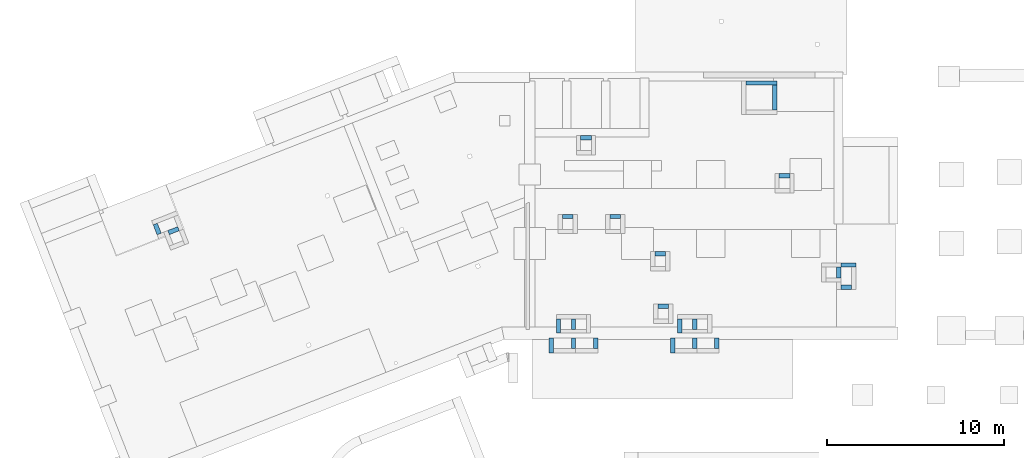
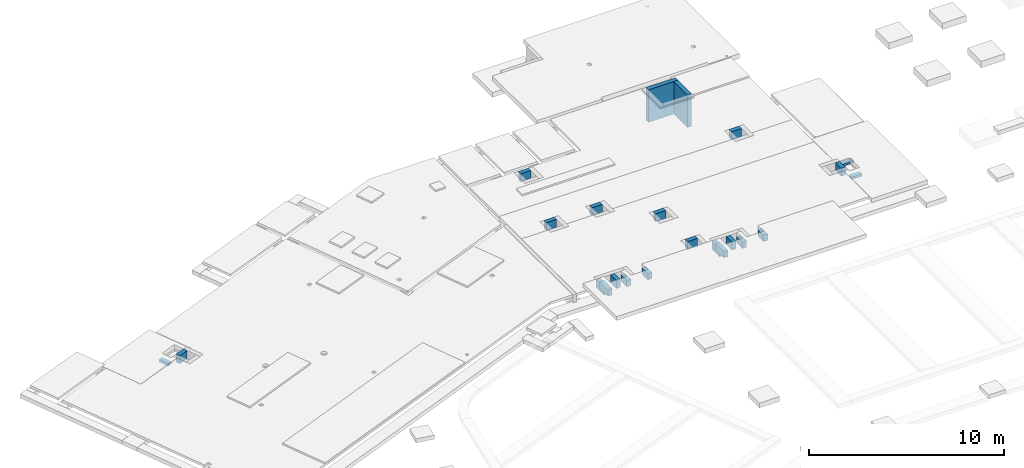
# One storey, part 6 of 9: 23 walls.
"""IFC2X3 building model written with IfcOpenShell, lengths in metres."""

from ifc_helpers import new_model, entity, si_unit, converted_unit, direction, frame, frame_2d, origin, origin_with_axes, place, context, subcontext, project, spatial, rectangle, extrude, material, layer, layer_set, layer_usage, element, save


model = new_model("IFC2X3")

# Units and contexts
model_context = context("Model", 3, precision=1e-05, world=origin(), true_north=direction((-0.407059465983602, -0.913401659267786)))
body_context = subcontext(model_context, "Body", "Model", "MODEL_VIEW")
ifc_project = project(units=[si_unit("LENGTHUNIT", "METRE"), si_unit("AREAUNIT", "SQUARE_METRE"), si_unit("VOLUMEUNIT", "CUBIC_METRE"), si_unit("MASSUNIT", "GRAM", prefix="KILO"), converted_unit("PLANEANGLEUNIT", "DEGREE", entity("IfcPlaneAngleMeasure", 0.0174532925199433), si_unit("PLANEANGLEUNIT", "RADIAN"), dimensions=[0, 0, 0, 0, 0, 0, 0])], contexts=[model_context])

# Site, buildings, storey
site_placement = place(None, origin())
site = spatial("IfcSite", under=ifc_project, at=site_placement, Name="Site", CompositionType="ELEMENT")
building_1_placement = place(site_placement, origin())
building_1 = spatial("IfcBuilding", under=site, at=building_1_placement, Name="Site", CompositionType="COMPLEX")
building_2_placement = place(building_1_placement, origin())
building_2 = spatial("IfcBuilding", under=building_1, at=building_2_placement, Name="Bâtiments", CompositionType="ELEMENT")
storey_placement = place(building_2_placement, frame((0.0, 0.0, -7.1)))
storey = spatial("IfcBuildingStorey", under=building_2, at=storey_placement, Name="FONDATIONS", CompositionType="ELEMENT", Elevation=-7.1)

# Walls
ifc_material_1 = material(Name="Béton")
ifc_layer_1 = layer(ifc_material_1, 0.25)
ifc_layer_set_1 = layer_set([ifc_layer_1])
ifc_layer_usage_1 = layer_usage(ifc_layer_set_1, "AXIS2", "POSITIVE", 0.0)
wall_1_placement = place(storey_placement, frame((6.54942355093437, 0.904791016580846, 1.9), z_axis=(0.0, 0.0, 1.0), x_axis=(0.365246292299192, -0.930910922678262, 0.0)))
element("IfcWallStandardCase", 1, at=wall_1_placement, inside=storey, material=ifc_layer_usage_1, context=body_context, shape_type="SweptSolid", body=[
    extrude(rectangle(XDim=0.6, YDim=0.25, at=frame_2d((0.3, 0.125), x_axis=(1.0, 0.0))), origin_with_axes(), (0.0, 0.0, 1.0), 0.15),
])
ifc_material_2 = material(Name="Béton")
ifc_layer_2 = layer(ifc_material_2, 0.250000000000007)
ifc_layer_set_2 = layer_set([ifc_layer_2])
ifc_layer_usage_2 = layer_usage(ifc_layer_set_2, "AXIS2", "POSITIVE", 0.0)
wall_2_placement = place(storey_placement, frame((46.3422690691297, -1.24454289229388, 1.9), z_axis=(0.0, 0.0, 1.0), x_axis=(-1.0, 0.0, 0.0)))
element("IfcWallStandardCase", 2, at=wall_2_placement, inside=storey, material=ifc_layer_usage_2, context=body_context, shape_type="SweptSolid", body=[
    extrude(rectangle(XDim=0.85, YDim=0.250000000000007, at=frame_2d((0.425, 0.125000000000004), x_axis=(1.0, 0.0))), origin_with_axes(), (0.0, 0.0, 1.0), 0.15),
])
ifc_material_3 = material(Name="Béton")
ifc_layer_3 = layer(ifc_material_3, 0.249999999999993)
ifc_layer_set_3 = layer_set([ifc_layer_3])
ifc_layer_usage_3 = layer_usage(ifc_layer_set_3, "AXIS2", "POSITIVE", 0.0)
wall_3_placement = place(storey_placement, frame((45.4922690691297, -2.74454289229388, 1.9), z_axis=(0.0, 0.0, 1.0), x_axis=(1.0, 1.2126596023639e-14, 0.0)))
element("IfcWallStandardCase", 3, at=wall_3_placement, inside=storey, material=ifc_layer_usage_3, context=body_context, shape_type="SweptSolid", body=[
    extrude(rectangle(XDim=0.6, YDim=0.249999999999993, at=frame_2d((0.3, 0.124999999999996), x_axis=(1.0, 0.0))), origin_with_axes(), (0.0, 0.0, 1.0), 0.15),
])
ifc_material_4 = material(Name="Béton")
ifc_layer_4 = layer(ifc_material_4, 0.249999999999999)
ifc_layer_set_4 = layer_set([ifc_layer_4])
ifc_layer_usage_4 = layer_usage(ifc_layer_set_4, "AXIS2", "POSITIVE", 0.0)
wall_4_placement = place(storey_placement, frame((7.93220997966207, 0.802802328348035, 1.8), z_axis=(0.0, 0.0, 1.0), x_axis=(-0.930910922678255, -0.36524629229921, 0.0)))
element("IfcWallStandardCase", 4, at=wall_4_placement, inside=storey, material=ifc_layer_usage_4, context=body_context, shape_type="SweptSolid", body=[
    extrude(rectangle(XDim=0.600000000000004, YDim=0.249999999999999, at=frame_2d((0.300000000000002, 0.125), x_axis=(1.0, 0.0))), origin_with_axes(), (0.0, 0.0, 1.0), 0.5),
])
ifc_material_5 = material(Name="Béton")
ifc_layer_5 = layer(ifc_material_5, 0.25)
ifc_layer_set_5 = layer_set([ifc_layer_5])
ifc_layer_usage_5 = layer_usage(ifc_layer_set_5, "AXIS2", "POSITIVE", 0.0)
wall_5_placement = place(storey_placement, frame((29.3701009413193, -4.41843455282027, 1.8), z_axis=(0.0, 0.0, 1.0), x_axis=(2.27373675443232e-14, -1.0, 0.0)))
element("IfcWallStandardCase", 5, at=wall_5_placement, inside=storey, material=ifc_layer_usage_5, context=body_context, shape_type="SweptSolid", body=[
    extrude(rectangle(XDim=0.799999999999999, YDim=0.25, at=frame_2d((0.4, 0.125), x_axis=(1.0, 0.0))), origin_with_axes(), (0.0, 0.0, 1.0), 0.5),
])
ifc_material_6 = material(Name="Béton")
ifc_layer_6 = layer(ifc_material_6, 0.25)
ifc_layer_set_6 = layer_set([ifc_layer_6])
ifc_layer_usage_6 = layer_usage(ifc_layer_set_6, "AXIS2", "POSITIVE", 0.0)
wall_6_placement = place(storey_placement, frame((30.2201009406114, -4.41843455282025, 1.8), z_axis=(0.0, 0.0, 1.0), x_axis=(2.42531920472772e-14, -1.0, 0.0)))
element("IfcWallStandardCase", 6, at=wall_6_placement, inside=storey, material=ifc_layer_usage_6, context=body_context, shape_type="SweptSolid", body=[
    extrude(rectangle(XDim=0.600000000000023, YDim=0.25, at=frame_2d((0.300000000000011, 0.125), x_axis=(1.0, 0.0))), origin_with_axes(), (0.0, 0.0, 1.0), 0.5),
])
ifc_material_7 = material(Name="Béton")
ifc_layer_7 = layer(ifc_material_7, 0.25)
ifc_layer_set_7 = layer_set([ifc_layer_7])
ifc_layer_usage_7 = layer_usage(ifc_layer_set_7, "AXIS2", "POSITIVE", 0.0)
wall_7_placement = place(storey_placement, frame((36.2301009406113, -4.41843455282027, 1.8), z_axis=(0.0, 0.0, 1.0), x_axis=(1.81898940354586e-14, -1.0, 0.0)))
element("IfcWallStandardCase", 7, at=wall_7_placement, inside=storey, material=ifc_layer_usage_7, context=body_context, shape_type="SweptSolid", body=[
    extrude(rectangle(XDim=0.799999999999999, YDim=0.25, at=frame_2d((0.4, 0.125), x_axis=(1.0, 0.0))), origin_with_axes(), (0.0, 0.0, 1.0), 0.5),
])
ifc_material_8 = material(Name="Béton")
ifc_layer_8 = layer(ifc_material_8, 0.25)
ifc_layer_set_8 = layer_set([ifc_layer_8])
ifc_layer_usage_8 = layer_usage(ifc_layer_set_8, "AXIS2", "POSITIVE", 0.0)
wall_8_placement = place(storey_placement, frame((37.0801009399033, -4.41843455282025, 1.8), z_axis=(0.0, 0.0, 1.0), x_axis=(2.42531920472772e-14, -1.0, 0.0)))
element("IfcWallStandardCase", 8, at=wall_8_placement, inside=storey, material=ifc_layer_usage_8, context=body_context, shape_type="SweptSolid", body=[
    extrude(rectangle(XDim=0.600000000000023, YDim=0.25, at=frame_2d((0.300000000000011, 0.125), x_axis=(1.0, 0.0))), origin_with_axes(), (0.0, 0.0, 1.0), 0.5),
])
ifc_material_9 = material(Name="Béton")
ifc_layer_9 = layer(ifc_material_9, 0.249999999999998)
ifc_layer_set_9 = layer_set([ifc_layer_9])
ifc_layer_usage_9 = layer_usage(ifc_layer_set_9, "AXIS2", "POSITIVE", 0.0)
wall_9_placement = place(storey_placement, frame((35.7200869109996, -3.57840873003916, 1.8), z_axis=(0.0, 0.0, 1.0), x_axis=(-1.0, 0.0, 0.0)))
element("IfcWallStandardCase", 9, at=wall_9_placement, inside=storey, material=ifc_layer_usage_9, context=body_context, shape_type="SweptSolid", body=[
    extrude(rectangle(XDim=0.600000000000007, YDim=0.249999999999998, at=frame_2d((0.300000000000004, 0.124999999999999), x_axis=(1.0, 0.0))), origin_with_axes(), (0.0, 0.0, 1.0), 0.5),
])
ifc_material_10 = material(Name="Béton")
ifc_layer_10 = layer(ifc_material_10, 0.249999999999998)
ifc_layer_set_10 = layer_set([ifc_layer_10])
ifc_layer_usage_10 = layer_usage(ifc_layer_set_10, "AXIS2", "POSITIVE", 0.0)
wall_10_placement = place(storey_placement, frame((30.3121650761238, 1.50172414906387, 1.8), z_axis=(0.0, 0.0, 1.0), x_axis=(-1.0, 0.0, 0.0)))
element("IfcWallStandardCase", 10, at=wall_10_placement, inside=storey, material=ifc_layer_usage_10, context=body_context, shape_type="SweptSolid", body=[
    extrude(rectangle(XDim=0.600000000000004, YDim=0.249999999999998, at=frame_2d((0.300000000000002, 0.124999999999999), x_axis=(1.0, 0.0))), origin_with_axes(), (0.0, 0.0, 1.0), 0.5),
])
ifc_material_11 = material(Name="Béton")
ifc_layer_11 = layer(ifc_material_11, 0.249999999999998)
ifc_layer_set_11 = layer_set([ifc_layer_11])
ifc_layer_usage_11 = layer_usage(ifc_layer_set_11, "AXIS2", "POSITIVE", 0.0)
wall_11_placement = place(storey_placement, frame((33.0121650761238, 1.50172414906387, 1.8), z_axis=(0.0, 0.0, 1.0), x_axis=(-1.0, 0.0, 0.0)))
element("IfcWallStandardCase", 11, at=wall_11_placement, inside=storey, material=ifc_layer_usage_11, context=body_context, shape_type="SweptSolid", body=[
    extrude(rectangle(XDim=0.600000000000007, YDim=0.249999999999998, at=frame_2d((0.300000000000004, 0.124999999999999), x_axis=(1.0, 0.0))), origin_with_axes(), (0.0, 0.0, 1.0), 0.5),
])
ifc_material_12 = material(Name="Béton")
ifc_layer_12 = layer(ifc_material_12, 0.249999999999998)
ifc_layer_set_12 = layer_set([ifc_layer_12])
ifc_layer_usage_12 = layer_usage(ifc_layer_set_12, "AXIS2", "POSITIVE", 0.0)
wall_12_placement = place(storey_placement, frame((35.5624715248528, -0.603705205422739, 1.8), z_axis=(0.0, 0.0, 1.0), x_axis=(-1.0, 0.0, 0.0)))
element("IfcWallStandardCase", 12, at=wall_12_placement, inside=storey, material=ifc_layer_usage_12, context=body_context, shape_type="SweptSolid", body=[
    extrude(rectangle(XDim=0.600000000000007, YDim=0.249999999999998, at=frame_2d((0.300000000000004, 0.124999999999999), x_axis=(1.0, 0.0))), origin_with_axes(), (0.0, 0.0, 1.0), 0.5),
])
ifc_material_13 = material(Name="Béton")
ifc_layer_13 = layer(ifc_material_13, 0.249999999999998)
ifc_layer_set_13 = layer_set([ifc_layer_13])
ifc_layer_usage_13 = layer_usage(ifc_layer_set_13, "AXIS2", "POSITIVE", 0.0)
wall_13_placement = place(storey_placement, frame((31.3544459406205, 5.95835778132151, 1.8), z_axis=(0.0, 0.0, 1.0), x_axis=(-1.0, 0.0, 0.0)))
element("IfcWallStandardCase", 13, at=wall_13_placement, inside=storey, material=ifc_layer_usage_13, context=body_context, shape_type="SweptSolid", body=[
    extrude(rectangle(XDim=0.600000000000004, YDim=0.249999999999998, at=frame_2d((0.300000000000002, 0.124999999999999), x_axis=(1.0, 0.0))), origin_with_axes(), (0.0, 0.0, 1.0), 0.5),
])
ifc_material_14 = material(Name="Béton")
ifc_layer_14 = layer(ifc_material_14, 0.25)
ifc_layer_set_14 = layer_set([ifc_layer_14])
ifc_layer_usage_14 = layer_usage(ifc_layer_set_14, "AXIS2", "POSITIVE", 0.0)
wall_14_placement = place(storey_placement, frame((45.4922690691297, -2.09454289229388, 1.8), z_axis=(0.0, 0.0, 1.0), x_axis=(0.0, 1.0, 0.0)))
element("IfcWallStandardCase", 14, at=wall_14_placement, inside=storey, material=ifc_layer_usage_14, context=body_context, shape_type="SweptSolid", body=[
    extrude(rectangle(XDim=0.600000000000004, YDim=0.25, at=frame_2d((0.300000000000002, 0.125), x_axis=(1.0, 0.0))), origin_with_axes(), (0.0, 0.0, 1.0), 0.5),
])
ifc_material_15 = material(Name="Béton")
ifc_layer_15 = layer(ifc_material_15, 0.249999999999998)
ifc_layer_set_15 = layer_set([ifc_layer_15])
ifc_layer_usage_15 = layer_usage(ifc_layer_set_15, "AXIS2", "POSITIVE", 0.0)
wall_15_placement = place(storey_placement, frame((42.59232089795, 3.80172912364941, 1.8), z_axis=(0.0, 0.0, 1.0), x_axis=(-1.0, 0.0, 0.0)))
element("IfcWallStandardCase", 15, at=wall_15_placement, inside=storey, material=ifc_layer_usage_15, context=body_context, shape_type="SweptSolid", body=[
    extrude(rectangle(XDim=0.600000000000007, YDim=0.249999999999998, at=frame_2d((0.300000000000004, 0.124999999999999), x_axis=(1.0, 0.0))), origin_with_axes(), (0.0, 0.0, 1.0), 0.5),
])
ifc_material_16 = material(Name="Béton")
ifc_layer_16 = layer(ifc_material_16, 0.250000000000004)
ifc_layer_set_16 = layer_set([ifc_layer_16])
ifc_layer_usage_16 = layer_usage(ifc_layer_set_16, "AXIS2", "POSITIVE", 0.0)
wall_16_placement = place(storey_placement, frame((29.2188861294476, -6.33888962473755, 2.55), z_axis=(0.0, 0.0, 1.0), x_axis=(0.0, 1.0, 0.0)))
element("IfcWallStandardCase", 16, at=wall_16_placement, inside=storey, material=ifc_layer_usage_16, context=body_context, shape_type="SweptSolid", body=[
    extrude(rectangle(XDim=0.850000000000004, YDim=0.250000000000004, at=frame_2d((0.425000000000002, 0.125000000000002), x_axis=(1.0, 0.0))), origin_with_axes(), (0.0, 0.0, 1.0), 0.4),
])
ifc_material_17 = material(Name="Béton")
ifc_layer_17 = layer(ifc_material_17, 0.250000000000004)
ifc_layer_set_17 = layer_set([ifc_layer_17])
ifc_layer_usage_17 = layer_usage(ifc_layer_set_17, "AXIS2", "POSITIVE", 0.0)
wall_17_placement = place(storey_placement, frame((30.2188861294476, -5.48888962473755, 2.55), z_axis=(0.0, 0.0, 1.0), x_axis=(0.0, -1.0, 0.0)))
element("IfcWallStandardCase", 17, at=wall_17_placement, inside=storey, material=ifc_layer_usage_17, context=body_context, shape_type="SweptSolid", body=[
    extrude(rectangle(XDim=0.6, YDim=0.250000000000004, at=frame_2d((0.3, 0.125000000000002), x_axis=(1.0, 0.0))), origin_with_axes(), (0.0, 0.0, 1.0), 0.4),
])
ifc_material_18 = material(Name="Béton")
ifc_layer_18 = layer(ifc_material_18, 0.250000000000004)
ifc_layer_set_18 = layer_set([ifc_layer_18])
ifc_layer_usage_18 = layer_usage(ifc_layer_set_18, "AXIS2", "POSITIVE", 0.0)
wall_18_placement = place(storey_placement, frame((31.4688861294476, -5.48888962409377, 2.55), z_axis=(0.0, 0.0, 1.0), x_axis=(0.0, -1.0, 0.0)))
element("IfcWallStandardCase", 18, at=wall_18_placement, inside=storey, material=ifc_layer_usage_18, context=body_context, shape_type="SweptSolid", body=[
    extrude(rectangle(XDim=0.59953604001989, YDim=0.250000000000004, at=frame_2d((0.299768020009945, 0.125000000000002), x_axis=(1.0, 0.0))), origin_with_axes(), (0.0, 0.0, 1.0), 0.4),
])
ifc_material_19 = material(Name="Béton")
ifc_layer_19 = layer(ifc_material_19, 0.25)
ifc_layer_set_19 = layer_set([ifc_layer_19])
ifc_layer_usage_19 = layer_usage(ifc_layer_set_19, "AXIS2", "POSITIVE", 0.0)
wall_19_placement = place(storey_placement, frame((36.0840005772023, -6.33888962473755, 2.55), z_axis=(0.0, 0.0, 1.0), x_axis=(0.0, 1.0, 0.0)))
element("IfcWallStandardCase", 19, at=wall_19_placement, inside=storey, material=ifc_layer_usage_19, context=body_context, shape_type="SweptSolid", body=[
    extrude(rectangle(XDim=0.850000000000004, YDim=0.25, at=frame_2d((0.425000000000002, 0.125), x_axis=(1.0, 0.0))), origin_with_axes(), (0.0, 0.0, 1.0), 0.4),
])
ifc_material_20 = material(Name="Béton")
ifc_layer_20 = layer(ifc_material_20, 0.25)
ifc_layer_set_20 = layer_set([ifc_layer_20])
ifc_layer_usage_20 = layer_usage(ifc_layer_set_20, "AXIS2", "POSITIVE", 0.0)
wall_20_placement = place(storey_placement, frame((37.0840005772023, -5.48888962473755, 2.55), z_axis=(0.0, 0.0, 1.0), x_axis=(0.0, -1.0, 0.0)))
element("IfcWallStandardCase", 20, at=wall_20_placement, inside=storey, material=ifc_layer_usage_20, context=body_context, shape_type="SweptSolid", body=[
    extrude(rectangle(XDim=0.6, YDim=0.25, at=frame_2d((0.3, 0.125), x_axis=(1.0, 0.0))), origin_with_axes(), (0.0, 0.0, 1.0), 0.4),
])
ifc_material_21 = material(Name="Béton")
ifc_layer_21 = layer(ifc_material_21, 0.25)
ifc_layer_set_21 = layer_set([ifc_layer_21])
ifc_layer_usage_21 = layer_usage(ifc_layer_set_21, "AXIS2", "POSITIVE", 0.0)
wall_21_placement = place(storey_placement, frame((38.3340005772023, -5.48888962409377, 2.55), z_axis=(0.0, 0.0, 1.0), x_axis=(0.0, -1.0, 0.0)))
element("IfcWallStandardCase", 21, at=wall_21_placement, inside=storey, material=ifc_layer_usage_21, context=body_context, shape_type="SweptSolid", body=[
    extrude(rectangle(XDim=0.59953604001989, YDim=0.25, at=frame_2d((0.299768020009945, 0.125), x_axis=(1.0, 0.0))), origin_with_axes(), (0.0, 0.0, 1.0), 0.4),
])
ifc_material_22 = material(Name="Béton")
ifc_layer_22 = layer(ifc_material_22, 0.249999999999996)
ifc_layer_set_22 = layer_set([ifc_layer_22])
ifc_layer_usage_22 = layer_usage(ifc_layer_set_22, "AXIS2", "POSITIVE", 0.0)
wall_22_placement = place(storey_placement, frame((41.8626440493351, 9.06038730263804, 0.36), z_axis=(0.0, 0.0, 1.0), x_axis=(-1.0, 0.0, 0.0)))
element("IfcWallStandardCase", 22, at=wall_22_placement, inside=storey, material=ifc_layer_usage_22, context=body_context, shape_type="SweptSolid", body=[
    extrude(rectangle(XDim=1.75000000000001, YDim=0.249999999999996, at=frame_2d((0.875000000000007, 0.124999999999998), x_axis=(1.0, 0.0))), origin_with_axes(), (0.0, 0.0, 1.0), 2.04),
])
ifc_material_23 = material(Name="Béton")
ifc_layer_23 = layer(ifc_material_23, 0.249999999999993)
ifc_layer_set_23 = layer_set([ifc_layer_23])
ifc_layer_usage_23 = layer_usage(ifc_layer_set_23, "AXIS2", "POSITIVE", 0.0)
wall_23_placement = place(storey_placement, frame((41.8626440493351, 7.41038730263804, 0.36), z_axis=(0.0, 0.0, 1.0), x_axis=(1.55913377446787e-14, 1.0, 0.0)))
element("IfcWallStandardCase", 23, at=wall_23_placement, inside=storey, material=ifc_layer_usage_23, context=body_context, shape_type="SweptSolid", body=[
    extrude(rectangle(XDim=1.40000000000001, YDim=0.249999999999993, at=frame_2d((0.700000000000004, 0.124999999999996), x_axis=(1.0, 0.0))), origin_with_axes(), (0.0, 0.0, 1.0), 2.04),
])

save(model, "model.ifc")
